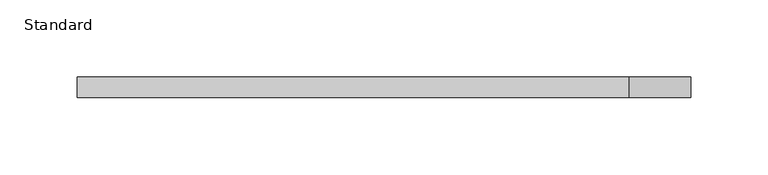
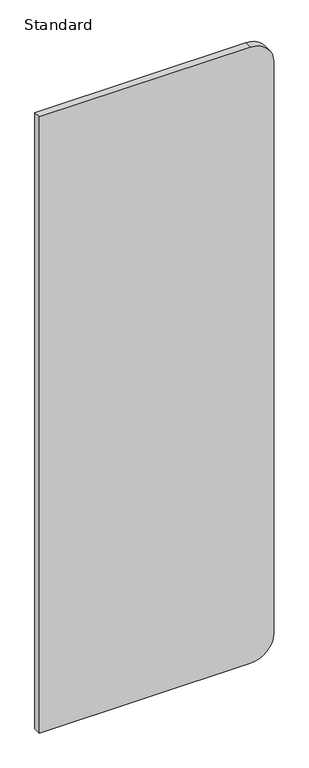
"""IFC4 building model written with IfcOpenShell, lengths in millimetres: furniture geometry, X_Partition-Compact Laminate-Duracube-Urinal : Standard."""

import ifcopenshell
import ifcopenshell.guid

model = None  # the IFC model being written
_history = None  # IfcOwnerHistory: only IFC2X3 demands one
_inside = {}  # id of a spatial element -> (the spatial element, [elements in it])
_under = {}  # id of a project, library or spatial element -> (it, [spatial elements below it])
_declared = {}  # id of a project -> (the project, [libraries it declares])
_typed = {}  # id of a type object -> (the type object, [elements of that type])
_made_of = {}  # id of a material, layer set ... -> (it, [elements and type objects made of it])


def new_model(schema):
    """Start an empty IFC model of exactly this schema.

    Asked for "IFC4X3", IfcOpenShell would pick the latest addendum, in which some entities
    have other attributes; the version numbers below select the first issue.
    IFC2X3 requires an IfcOwnerHistory on every rooted entity: one is made here for all.
    """
    global model, _history
    if schema == "IFC4X3":
        model = ifcopenshell.file(schema_version=(4, 3, 0, 0))
    else:
        model = ifcopenshell.file(schema=schema)
    _inside.clear()
    _under.clear()
    _declared.clear()
    _typed.clear()
    _made_of.clear()
    _history = None
    if model.schema == "IFC2X3":
        org = make("IfcOrganization", Name="unknown")
        user = make(
            "IfcPersonAndOrganization",
            ThePerson=make("IfcPerson", FamilyName="unknown"),
            TheOrganization=org,
        )
        app = make(
            "IfcApplication",
            ApplicationDeveloper=org,
            Version="unknown",
            ApplicationFullName="unknown",
            ApplicationIdentifier="unknown",
        )
        _history = make(
            "IfcOwnerHistory",
            OwningUser=user,
            OwningApplication=app,
            ChangeAction="ADDED",
            CreationDate=0,
        )
    return model


def make(cls, **values):
    """One entity of the class cls with the attributes given. An attribute that is None is left unset."""
    return model.create_entity(
        cls, **{name: value for name, value in values.items() if value is not None}
    )


def rooted(cls, **values):
    """An entity with a GlobalId (a new one), such as an element, a storey or a relation."""
    return make(cls, GlobalId=ifcopenshell.guid.new(), OwnerHistory=_history, **values)


def si_unit(unit_type, name, prefix=None):
    """IfcSIUnit, for example si_unit("LENGTHUNIT", "METRE", prefix="MILLI")."""
    return make("IfcSIUnit", UnitType=unit_type, Prefix=prefix, Name=name)


def assignment(units):
    """IfcUnitAssignment: the units of a project."""
    return None if units is None else make("IfcUnitAssignment", Units=units)


def point(xyz):
    """IfcCartesianPoint."""
    return None if xyz is None else make("IfcCartesianPoint", Coordinates=xyz)


def direction(xyz):
    """IfcDirection."""
    return None if xyz is None else make("IfcDirection", DirectionRatios=xyz)


def frame(location, z_axis=None, x_axis=None):
    """IfcAxis2Placement3D, a coordinate frame: its origin and axes. An axis left out is left unset."""
    return make(
        "IfcAxis2Placement3D",
        Location=point(location),
        Axis=direction(z_axis),
        RefDirection=direction(x_axis),
    )


def frame_2d(location, x_axis=None):
    """IfcAxis2Placement2D, a coordinate frame in the plane: its origin and x axis."""
    return make(
        "IfcAxis2Placement2D", Location=point(location), RefDirection=direction(x_axis)
    )


def origin():
    """The frame at (0, 0, 0) with its axes left unset."""
    return frame((0.0, 0.0, 0.0))


def place(relative_to, where):
    """IfcLocalPlacement: puts the frame where relative to a parent placement (None: the world)."""
    return make(
        "IfcLocalPlacement", PlacementRelTo=relative_to, RelativePlacement=where
    )


def context(
    kind, dimensions, precision=None, world=None, true_north=None, identifier=None
):
    """IfcGeometricRepresentationContext, for example the 3D "Model" context."""
    return make(
        "IfcGeometricRepresentationContext",
        ContextIdentifier=identifier,
        ContextType=kind,
        CoordinateSpaceDimension=dimensions,
        Precision=precision,
        WorldCoordinateSystem=world,
        TrueNorth=true_north,
    )


def project(units=None, contexts=None):
    """IfcProject with its units and contexts."""
    return rooted(
        "IfcProject",
        Name="project",
        RepresentationContexts=contexts,
        UnitsInContext=assignment(units),
    )


def spatial(cls, under=None, at=None, **own):
    """A site, building, storey or space (cls), placed at a placement, below another one or the project."""
    s = rooted(cls, ObjectPlacement=at, **own)
    if under is not None:
        _under.setdefault(under.id(), (under, []))[1].append(s)
    return s


def polyline(points):
    """IfcPolyline through the points."""
    return make("IfcPolyline", Points=[point(p) for p in points])


def circle_curve(where, radius):
    """IfcCircle in the frame where."""
    return make("IfcCircle", Position=where, Radius=radius)


def trimmed(basis, trim1, trim2, sense, master):
    """IfcTrimmedCurve: the piece of a basis curve between two trims."""
    return make(
        "IfcTrimmedCurve",
        BasisCurve=basis,
        Trim1=trim1,
        Trim2=trim2,
        SenseAgreement=sense,
        MasterRepresentation=master,
    )


def segment(curve, same_sense, transition):
    """IfcCompositeCurveSegment."""
    return make(
        "IfcCompositeCurveSegment",
        Transition=transition,
        SameSense=same_sense,
        ParentCurve=curve,
    )


def composite_curve(segments, self_intersect=None):
    """IfcCompositeCurve: segments joined end to end."""
    return make("IfcCompositeCurve", Segments=segments, SelfIntersect=self_intersect)


def outline(outer, holes=None, kind="AREA"):
    """IfcArbitraryClosedProfileDef: a profile drawn as a closed curve; with holes, ...WithVoids."""
    if holes is None:
        return make("IfcArbitraryClosedProfileDef", ProfileType=kind, OuterCurve=outer)
    return make(
        "IfcArbitraryProfileDefWithVoids",
        ProfileType=kind,
        OuterCurve=outer,
        InnerCurves=holes,
    )


def extrude(swept, where, along, depth):
    """IfcExtrudedAreaSolid: the profile swept, set in the frame where, extruded along a direction by depth."""
    return make(
        "IfcExtrudedAreaSolid",
        SweptArea=swept,
        Position=where,
        ExtrudedDirection=direction(along),
        Depth=depth,
    )


def shape(context_of_items, identifier, shape_type, items):
    """IfcShapeRepresentation: the items that make up one representation, for example the "Body"."""
    return make(
        "IfcShapeRepresentation",
        ContextOfItems=context_of_items,
        RepresentationIdentifier=identifier,
        RepresentationType=shape_type,
        Items=items,
    )


def source(mapping_origin, context_of_items, identifier, shape_type, items):
    """IfcRepresentationMap: a shape defined once, which mapped items show again and again."""
    return make(
        "IfcRepresentationMap",
        MappingOrigin=mapping_origin,
        MappedRepresentation=shape(context_of_items, identifier, shape_type, items),
    )


def transform(
    local_origin,
    x_axis=None,
    y_axis=None,
    z_axis=None,
    scale=None,
    scale2=None,
    scale3=None,
    uniform=True,
):
    """IfcCartesianTransformationOperator3D, or its non-uniform kind. x_axis, y_axis, z_axis: its Axis1, 2, 3."""
    if uniform:
        return make(
            "IfcCartesianTransformationOperator3D",
            Axis1=direction(x_axis),
            Axis2=direction(y_axis),
            LocalOrigin=point(local_origin),
            Scale=scale,
            Axis3=direction(z_axis),
        )
    return make(
        "IfcCartesianTransformationOperator3DnonUniform",
        Axis1=direction(x_axis),
        Axis2=direction(y_axis),
        LocalOrigin=point(local_origin),
        Scale=scale,
        Axis3=direction(z_axis),
        Scale2=scale2,
        Scale3=scale3,
    )


def mapped(mapping_source, mapping_target):
    """IfcMappedItem: shows the shape of a source again, moved by a transform."""
    return make(
        "IfcMappedItem", MappingSource=mapping_source, MappingTarget=mapping_target
    )


def made_of(thing, what):
    """Note that an element or type object is made of a material, layer set ...; save() writes the relation."""
    if what is not None:
        _made_of.setdefault(what.id(), (what, []))[1].append(thing)
    return thing


def element(
    cls,
    number,
    at=None,
    inside=None,
    cuts=None,
    type_object=None,
    material=None,
    context=None,
    identifier="Body",
    shape_type=None,
    held_by="IfcProductDefinitionShape",
    body=None,
    shapes=None,
    **own,
):
    """One element of the class cls, such as IfcWall. Its Tag is "e" and its number.

    at: its placement. inside: the storey or other place that contains it. cuts: it is an
    opening in that element (IfcRelVoidsElement). A single representation is given by context,
    identifier, shape_type and body (its items); several are given by shapes. held_by: the class
    of the entity that holds the representations. save() writes the other relations.
    """
    e = rooted(cls, Tag="e%d" % number, ObjectPlacement=at, **own)
    if body is not None:
        shapes = [shape(context, identifier, shape_type, body)]
    if shapes is not None:
        e.Representation = make(held_by, Representations=shapes)
    if inside is not None:
        _inside.setdefault(inside.id(), (inside, []))[1].append(e)
    if cuts is not None:
        rooted(
            "IfcRelVoidsElement", RelatingBuildingElement=cuts, RelatedOpeningElement=e
        )
    if type_object is not None:
        _typed.setdefault(type_object.id(), (type_object, []))[1].append(e)
    return made_of(e, material)


def aggregate(whole, parts):
    """IfcRelAggregates: a whole, such as a stair, and the parts it consists of."""
    return rooted("IfcRelAggregates", RelatingObject=whole, RelatedObjects=parts)


def save(model, path):
    """Write the relations noted so far, then the file.

    IfcRelAggregates (storeys below a building ...), IfcRelContainedInSpatialStructure (elements
    in a storey), IfcRelDefinesByType, IfcRelAssociatesMaterial and IfcRelDeclares: one each for
    every whole, place, type object, material and project.
    """
    for whole, parts in _under.values():
        aggregate(whole, parts)
    for where, things in _inside.values():
        rooted(
            "IfcRelContainedInSpatialStructure",
            RelatedElements=things,
            RelatingStructure=where,
        )
    for kind, things in _typed.values():
        rooted("IfcRelDefinesByType", RelatedObjects=things, RelatingType=kind)
    for what, things in _made_of.values():
        rooted("IfcRelAssociatesMaterial", RelatedObjects=things, RelatingMaterial=what)
    for by, libraries in _declared.values():
        rooted("IfcRelDeclares", RelatingContext=by, RelatedDefinitions=libraries)
    model.write(path)


def standard_a42f8bc6(model_context):
    return source(origin(), model_context, "Body", "SweptSolid", [
        extrude(outline(composite_curve([segment(trimmed(circle_curve(frame_2d((1360.0, 204.7003264)), 40.0), [point((1360.0, 244.7003264))], [point((1400.0, 204.7003264))], False, "CARTESIAN"), True, "CONTINUOUS"), segment(polyline([(1400.0, 204.7003264), (1400.0, -151.2996736), (300.0, -151.2996736), (300.0, 204.7003264)]), True, "CONTINUOUS"), segment(trimmed(circle_curve(frame_2d((340.0, 204.7003264)), 40.0), [point((300.0, 204.7003264))], [point((340.0, 244.7003264))], False, "CARTESIAN"), True, "CONTINUOUS"), segment(polyline([(340.0, 244.7003264), (1360.0, 244.7003264)]), True, "CONTINUOUS")], self_intersect=False)), frame((0.0, -13.0, 0.0), z_axis=(0.0, 1.0, 0.0), x_axis=(0.0, 0.0, 1.0)), (0.0, 0.0, 1.0), 13.0),
    ])


if __name__ == "__main__":
    model = new_model("IFC4")
    model_context = context("Model", 3, world=origin())
    ifc_project = project(units=[si_unit("LENGTHUNIT", "METRE", prefix="MILLI")], contexts=[model_context])
    site = spatial("IfcSite", under=ifc_project)
    building = spatial("IfcBuilding", under=site)
    placement = place(None, origin())
    standard_shape = standard_a42f8bc6(model_context)
    element("IfcFurniture", 1, ObjectType="X_Partition-Compact Laminate-Duracube-Urinal : Standard", at=placement, inside=building, context=model_context, shape_type="MappedRepresentation", body=[
        mapped(standard_shape, transform((0.0, 0.0, 0.0), x_axis=(1.0, 0.0, 0.0), y_axis=(0.0, 1.0, 0.0), z_axis=(0.0, 0.0, 1.0))),
    ])
    save(model, "model.ifc")
